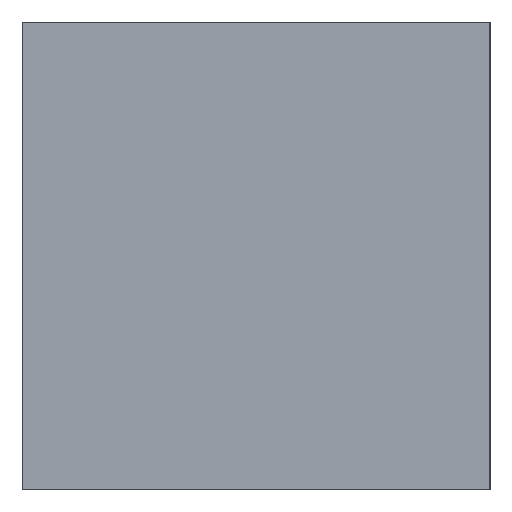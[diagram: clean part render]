
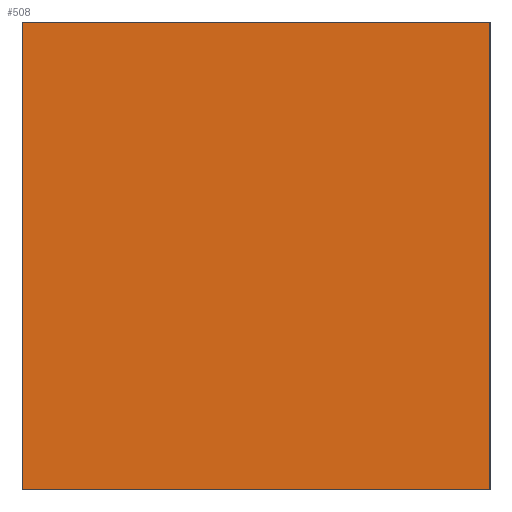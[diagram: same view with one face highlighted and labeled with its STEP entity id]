
A CAD part, left-side view. The second image highlights one B-rep face of the part: STEP entity #508.
In plain terms, the highlighted planar face has unit normal (-1, 0, 0).
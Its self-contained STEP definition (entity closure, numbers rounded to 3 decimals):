
#121 = CARTESIAN_POINT ( 'NONE',  ( -2., 15., 15. ) ) ;
#123 = DIRECTION ( 'NONE',  ( 0., 1., 0. ) ) ;
#125 = CARTESIAN_POINT ( 'NONE',  ( -2., 15., 0. ) ) ;
#126 = DIRECTION ( 'NONE',  ( 0., -1., 0. ) ) ;
#266 = EDGE_CURVE ( 'NONE', #715, #777, #1857, .T. ) ;
#268 = EDGE_CURVE ( 'NONE', #666, #710, #1861, .T. ) ;
#508 = ADVANCED_FACE ( 'NONE', ( #3051 ), #2775, .F. ) ;
#666 = VERTEX_POINT ( 'NONE', #3600 ) ;
#710 = VERTEX_POINT ( 'NONE', #3644 ) ;
#715 = VERTEX_POINT ( 'NONE', #3649 ) ;
#777 = VERTEX_POINT ( 'NONE', #3711 ) ;
#1320 = ORIENTED_EDGE ( 'NONE', *, *, #266, .T. ) ;
#1322 = ORIENTED_EDGE ( 'NONE', *, *, #1490, .T. ) ;
#1324 = ORIENTED_EDGE ( 'NONE', *, *, #268, .T. ) ;
#1326 = ORIENTED_EDGE ( 'NONE', *, *, #1555, .T. ) ;
#1490 = EDGE_CURVE ( 'NONE', #777, #666, #3180, .T. ) ;
#1555 = EDGE_CURVE ( 'NONE', #710, #715, #3308, .T. ) ;
#1857 = LINE ( 'NONE', #121, #1860 ) ;
#1860 = VECTOR ( 'NONE', #123, 1000. ) ;
#1861 = LINE ( 'NONE', #125, #1864 ) ;
#1864 = VECTOR ( 'NONE', #126, 1000. ) ;
#2768 = CARTESIAN_POINT ( 'NONE',  ( -2., 0., 0. ) ) ;
#2775 = PLANE ( 'NONE',  #3463 ) ;
#2777 = DIRECTION ( 'NONE',  ( 1., 0., 0. ) ) ;
#2778 = DIRECTION ( 'NONE',  ( 0., 0., -1. ) ) ;
#3051 = FACE_OUTER_BOUND ( 'NONE', #4223, .T. ) ;
#3180 = LINE ( 'NONE', #3800, #3183 ) ;
#3183 = VECTOR ( 'NONE', #3801, 1000. ) ;
#3308 = LINE ( 'NONE', #3913, #3313 ) ;
#3313 = VECTOR ( 'NONE', #3931, 1000. ) ;
#3463 = AXIS2_PLACEMENT_3D ( 'NONE', #2768, #2777, #2778 ) ;
#3600 = CARTESIAN_POINT ( 'NONE',  ( -2., 15., 0. ) ) ;
#3644 = CARTESIAN_POINT ( 'NONE',  ( -2., 0., 0. ) ) ;
#3649 = CARTESIAN_POINT ( 'NONE',  ( -2., 0., 15. ) ) ;
#3711 = CARTESIAN_POINT ( 'NONE',  ( -2., 15., 15. ) ) ;
#3800 = CARTESIAN_POINT ( 'NONE',  ( -2., 15., 15. ) ) ;
#3801 = DIRECTION ( 'NONE',  ( 0., 0., -1. ) ) ;
#3913 = CARTESIAN_POINT ( 'NONE',  ( -2., 0., 15. ) ) ;
#3931 = DIRECTION ( 'NONE',  ( 0., 0., 1. ) ) ;
#4223 = EDGE_LOOP ( 'NONE', ( #1320, #1322, #1324, #1326 ) ) ;
